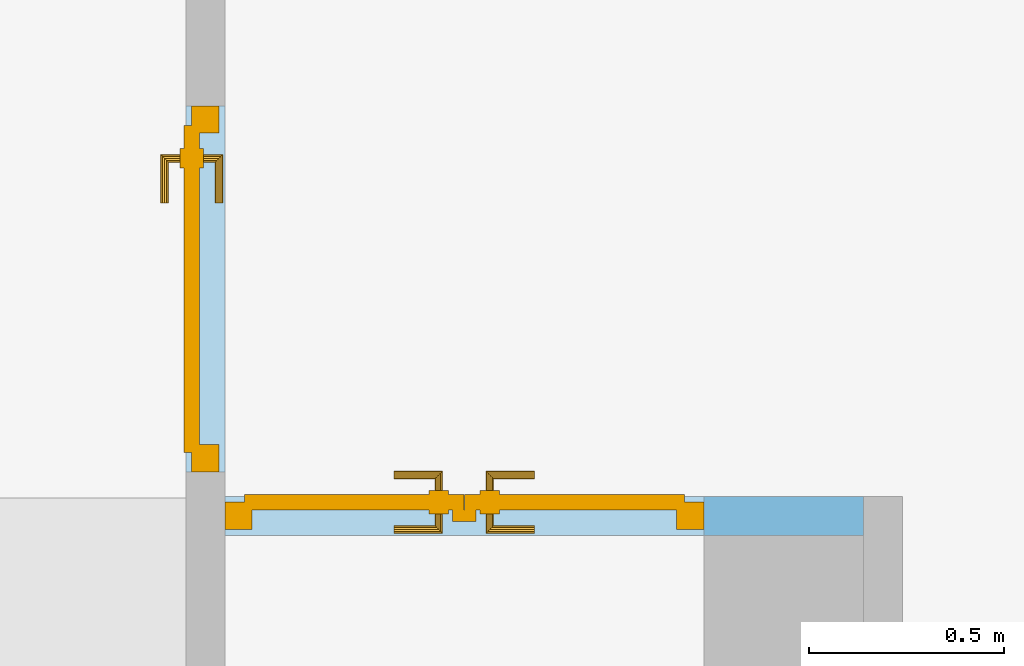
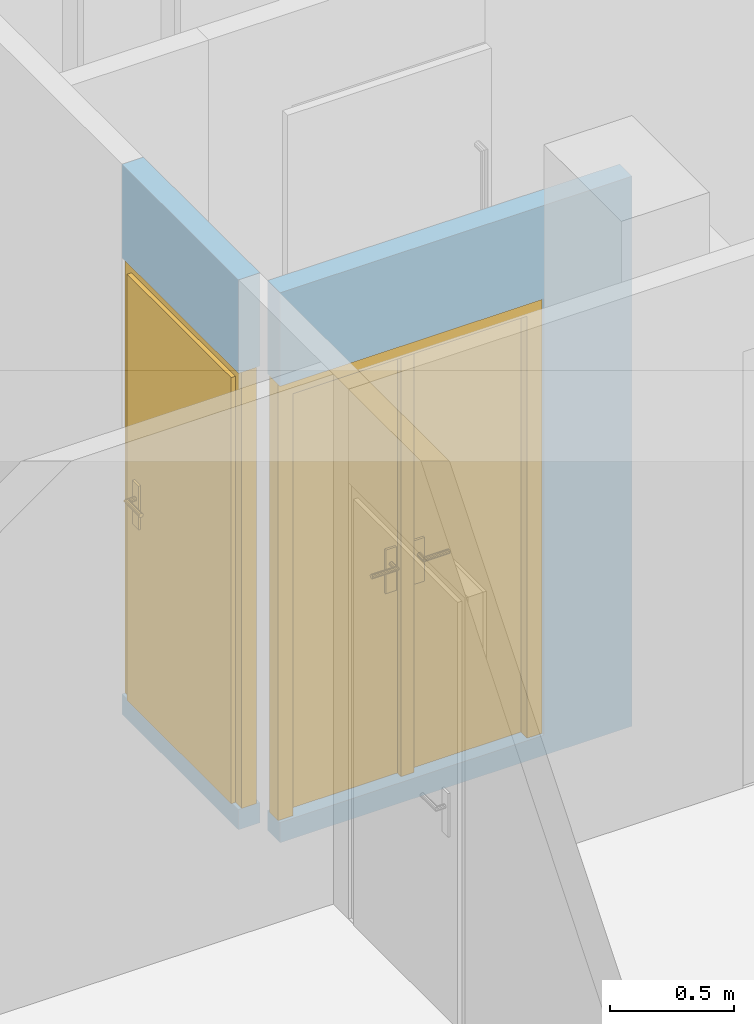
"""IFC4 building model written with IfcOpenShell, lengths in metres."""

from ifc_helpers import new_model, entity, si_unit, converted_unit, derived_unit, frame, frame_2d, origin, origin_with_axes, place, context, subcontext, project, spatial, polyline, rectangle, outline, extrude, faceted_brep, source, transform, mapped, material, layer, layer_set, layer_usage, element, fill, save


model = new_model("IFC4")

# Units and contexts
model_context = context("Model", 3, precision=1e-05, world=origin())
body_context = subcontext(model_context, "Body", "Model", "MODEL_VIEW")
ifc_project = project(units=[si_unit("LENGTHUNIT", "METRE"), si_unit("AREAUNIT", "SQUARE_METRE"), si_unit("VOLUMEUNIT", "CUBIC_METRE"), si_unit("MASSUNIT", "GRAM", prefix="KILO"), converted_unit("PLANEANGLEUNIT", "DEGREE", entity("IfcPlaneAngleMeasure", 0.0174532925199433), si_unit("PLANEANGLEUNIT", "RADIAN"), dimensions=[0, 0, 0, 0, 0, 0, 0]), derived_unit("THERMALTRANSMITTANCEUNIT", [(si_unit("POWERUNIT", "WATT"), 1), (si_unit("THERMODYNAMICTEMPERATUREUNIT", "KELVIN"), -1), (si_unit("LENGTHUNIT", "METRE"), -2)]), derived_unit("VOLUMETRICFLOWRATEUNIT", [(si_unit("LENGTHUNIT", "METRE"), 3), (converted_unit("TIMEUNIT", "hour", entity("IfcTimeMeasure", 3600.0), si_unit("TIMEUNIT", "SECOND"), dimensions=[0, 0, 1, 0, 0, 0, 0]), -1), (si_unit("LENGTHUNIT", "METRE"), -1)])], contexts=[model_context])

# Building, storeys
building_placement = place(None, origin())
building = spatial("IfcBuilding", under=ifc_project, at=building_placement, Name="HABITATGE PLURIFAMILIAR", CompositionType="ELEMENT")
storey_1_placement = place(building_placement, frame((0.0, 0.0, 18.29)))
storey_1 = spatial("IfcBuildingStorey", under=building, at=storey_1_placement, Name="PLANTA CINQUENA", CompositionType="ELEMENT", Elevation=18.29)
storey_2_placement = place(storey_1_placement, frame((0.0, 0.0, 15.28)))
storey_2 = spatial("IfcBuildingStorey", under=storey_1, at=storey_2_placement, Name="NOU", CompositionType="PARTIAL")

# Wall, opening, door
ifc_material_1 = material()
ifc_layer_1 = layer(ifc_material_1, 0.1)
ifc_layer_set_1 = layer_set([ifc_layer_1])
ifc_layer_usage_1 = layer_usage(ifc_layer_set_1, "AXIS2", "POSITIVE", 0.0)
wall_1_placement = place(storey_2_placement, frame((406.076984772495, 24.2444598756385, -15.38), z_axis=(0.0, 0.0, 1.0), x_axis=(-1.0, 0.0, 0.0)))
wall_1 = element("IfcWall", 1, at=wall_1_placement, inside=storey_2, material=ifc_layer_usage_1, Name="Evans P5", context=body_context, shape_type="SweptSolid", body=[
    extrude(rectangle(XDim=1.63999999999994, YDim=0.1, at=frame_2d((0.819999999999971, 0.05), x_axis=(1.0, 0.0))), origin_with_axes(), (0.0, 0.0, 1.0), 2.71),
])
opening_1_placement = place(wall_1_placement, frame((1.63999999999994, 0.1, 0.1), z_axis=(0.0, -1.0, 0.0), x_axis=(0.0, 0.0, 1.0)))
opening_1 = element("IfcOpeningElement", 2, at=opening_1_placement, cuts=wall_1, Name="Vano porta P5", ObjectType="Opening", context=body_context, shape_type="SweptSolid", body=[
    extrude(outline(polyline([(2.15, 1.23), (2.15, 0.0), (0.0, 0.0), (0.0, 1.23), (2.15, 1.23)])), origin_with_axes(), (0.0, 0.0, 1.0), 0.1),
])
shared_shape_1 = source(origin_with_axes(), body_context, "Body", "Brep", [
    faceted_brep([(0.0, 0.07, 2.15), (0.0, 0.07, 0.0), (0.07, 0.07, 0.0), (0.07, 0.07, 2.15), (0.0, 0.0, 0.0), (0.0, 0.0, 2.15), (0.07, 0.0, 2.15), (0.07, 0.0, 0.0)], [[[0, 1, 2, 3]], [[4, 5, 6, 7]], [[1, 0, 5, 4]], [[2, 1, 4, 7]], [[3, 2, 7, 6]], [[0, 3, 6, 5]]], orient=[[False], [False], [False], [False], [False], [False]]),
    faceted_brep([(1.16, 0.07, 2.15), (1.16, 0.07, 0.0), (1.23, 0.07, 0.0), (1.23, 0.07, 2.15), (1.16, 0.0, 0.0), (1.16, 0.0, 2.15), (1.23, 0.0, 2.15), (1.23, 0.0, 0.0)], [[[0, 1, 2, 3]], [[4, 5, 6, 7]], [[1, 0, 5, 4]], [[2, 1, 4, 7]], [[3, 2, 7, 6]], [[0, 3, 6, 5]]], orient=[[False], [False], [False], [False], [False], [False]]),
    faceted_brep([(0.07, 0.07, 2.15), (0.07, 0.07, 2.08), (1.16, 0.07, 2.08), (1.16, 0.07, 2.15), (0.07, 0.0, 2.08), (0.07, 0.0, 2.15), (1.16, 0.0, 2.15), (1.16, 0.0, 2.08)], [[[0, 1, 2, 3]], [[4, 5, 6, 7]], [[1, 0, 5, 4]], [[2, 1, 4, 7]], [[3, 2, 7, 6]], [[0, 3, 6, 5]]], orient=[[False], [False], [False], [False], [False], [False]]),
    faceted_brep([(0.05, 0.09, 2.1), (0.05, 0.09, 0.0), (0.6145, 0.09, 0.0), (0.6145, 0.09, 2.1), (0.05, 0.05, 0.0), (0.05, 0.05, 2.1), (0.6145, 0.05, 2.1), (0.6145, 0.05, 0.0)], [[[0, 1, 2, 3]], [[4, 5, 6, 7]], [[1, 0, 5, 4]], [[2, 1, 4, 7]], [[3, 2, 7, 6]], [[0, 3, 6, 5]]], orient=[[False], [False], [False], [False], [False], [False]]),
    faceted_brep([(0.5845, 0.05, 2.08), (0.5845, 0.05, 0.0), (0.6445, 0.05, 0.0), (0.6445, 0.05, 2.08), (0.5845, 0.02, 0.0), (0.5845, 0.02, 2.08), (0.6445, 0.02, 2.08), (0.6445, 0.02, 0.0)], [[[0, 1, 2, 3]], [[4, 5, 6, 7]], [[1, 0, 5, 4]], [[2, 1, 4, 7]], [[3, 2, 7, 6]], [[0, 3, 6, 5]]], orient=[[False], [False], [False], [False], [False], [False]]),
    faceted_brep([(0.5245, 0.05, 1.125), (0.5245, 0.05, 0.91), (0.5745, 0.05, 0.91), (0.5745, 0.05, 1.125), (0.5245, 0.04, 0.91), (0.5245, 0.04, 1.125), (0.5745, 0.04, 1.125), (0.5745, 0.04, 0.91)], [[[0, 1, 2, 3]], [[4, 5, 6, 7]], [[1, 0, 5, 4]], [[2, 1, 4, 7]], [[3, 2, 7, 6]], [[0, 3, 6, 5]]], orient=[[False], [False], [False], [False], [False], [False]]),
    faceted_brep([(0.5495, 0.04, 1.06), (0.5445, 0.04, 1.05866025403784), (0.540839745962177, 0.04, 1.055), (0.5395, 0.04, 1.05), (0.540839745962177, 0.04, 1.045), (0.5445, 0.04, 1.04133974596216), (0.5495, 0.04, 1.04), (0.5545, 0.04, 1.04133974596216), (0.558160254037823, 0.04, 1.045), (0.5595, 0.04, 1.05), (0.558160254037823, 0.04, 1.055), (0.5545, 0.04, 1.05866025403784), (0.5545, -0.005, 1.05866025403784), (0.5495, 0.0, 1.06), (0.558160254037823, -0.00866025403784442, 1.055), (0.5595, -0.01, 1.05), (0.558160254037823, -0.00866025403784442, 1.045), (0.5545, -0.005, 1.04133974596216), (0.5495, 0.0, 1.04), (0.5445, 0.005, 1.04133974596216), (0.540839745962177, 0.00866025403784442, 1.045), (0.5395, 0.01, 1.05), (0.540839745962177, 0.00866025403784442, 1.055), (0.5445, 0.005, 1.05866025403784), (0.4345, 0.0, 1.06), (0.4345, -0.005, 1.05866025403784), (0.4345, -0.00866025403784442, 1.055), (0.4345, -0.01, 1.05), (0.4345, -0.00866025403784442, 1.045), (0.4345, -0.005, 1.04133974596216), (0.4345, 0.0, 1.04), (0.4345, 0.005, 1.04133974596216), (0.4345, 0.00866025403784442, 1.045), (0.4345, 0.01, 1.05), (0.4345, 0.00866025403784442, 1.055), (0.4345, 0.005, 1.05866025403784)], [[[0, 1, 2, 3, 4, 5, 6, 7, 8, 9, 10, 11]], [[0, 11, 12, 13]], [[11, 10, 14, 12]], [[10, 9, 15, 14]], [[9, 8, 16, 15]], [[8, 7, 17, 16]], [[7, 6, 18, 17]], [[6, 5, 19, 18]], [[5, 4, 20, 19]], [[4, 3, 21, 20]], [[3, 2, 22, 21]], [[2, 1, 23, 22]], [[1, 0, 13, 23]], [[24, 25, 26, 27, 28, 29, 30, 31, 32, 33, 34, 35]], [[13, 12, 25, 24]], [[12, 14, 26, 25]], [[14, 15, 27, 26]], [[15, 16, 28, 27]], [[16, 17, 29, 28]], [[17, 18, 30, 29]], [[18, 19, 31, 30]], [[19, 20, 32, 31]], [[20, 21, 33, 32]], [[21, 22, 34, 33]], [[22, 23, 35, 34]], [[23, 13, 24, 35]]], orient=[[False], [False], [False], [False], [False], [False], [False], [False], [False], [False], [False], [False], [False], [False], [False], [False], [False], [False], [False], [False], [False], [False], [False], [False], [False], [False]]),
    faceted_brep([(0.5245, 0.09, 1.125), (0.5745, 0.09, 1.125), (0.5745, 0.09, 0.91), (0.5245, 0.09, 0.91), (0.5245, 0.1, 0.91), (0.5745, 0.1, 0.91), (0.5745, 0.1, 1.125), (0.5245, 0.1, 1.125)], [[[0, 1, 2, 3]], [[4, 5, 6, 7]], [[3, 4, 7, 0]], [[2, 5, 4, 3]], [[1, 6, 5, 2]], [[0, 7, 6, 1]]], orient=[[False], [False], [False], [False], [False], [False]]),
    faceted_brep([(0.5495, 0.1, 1.06), (0.5545, 0.1, 1.05866025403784), (0.558160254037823, 0.1, 1.055), (0.5595, 0.1, 1.05), (0.558160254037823, 0.1, 1.045), (0.5545, 0.1, 1.04133974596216), (0.5495, 0.1, 1.04), (0.5445, 0.1, 1.04133974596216), (0.540839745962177, 0.1, 1.045), (0.5395, 0.1, 1.05), (0.540839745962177, 0.1, 1.055), (0.5445, 0.1, 1.05866025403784), (0.5495, 0.14, 1.06), (0.5545, 0.145, 1.05866025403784), (0.558160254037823, 0.148660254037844, 1.055), (0.5595, 0.15, 1.05), (0.558160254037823, 0.148660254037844, 1.045), (0.5545, 0.145, 1.04133974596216), (0.5495, 0.14, 1.04), (0.5445, 0.135, 1.04133974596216), (0.540839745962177, 0.131339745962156, 1.045), (0.5395, 0.13, 1.05), (0.540839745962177, 0.131339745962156, 1.055), (0.5445, 0.135, 1.05866025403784), (0.4345, 0.14, 1.06), (0.4345, 0.135, 1.05866025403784), (0.4345, 0.131339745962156, 1.055), (0.4345, 0.13, 1.05), (0.4345, 0.131339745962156, 1.045), (0.4345, 0.135, 1.04133974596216), (0.4345, 0.14, 1.04), (0.4345, 0.145, 1.04133974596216), (0.4345, 0.148660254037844, 1.045), (0.4345, 0.15, 1.05), (0.4345, 0.148660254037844, 1.055), (0.4345, 0.145, 1.05866025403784)], [[[0, 1, 2, 3, 4, 5, 6, 7, 8, 9, 10, 11]], [[0, 12, 13, 1]], [[1, 13, 14, 2]], [[2, 14, 15, 3]], [[3, 15, 16, 4]], [[4, 16, 17, 5]], [[5, 17, 18, 6]], [[6, 18, 19, 7]], [[7, 19, 20, 8]], [[8, 20, 21, 9]], [[9, 21, 22, 10]], [[10, 22, 23, 11]], [[11, 23, 12, 0]], [[24, 25, 26, 27, 28, 29, 30, 31, 32, 33, 34, 35]], [[12, 24, 35, 13]], [[13, 35, 34, 14]], [[14, 34, 33, 15]], [[15, 33, 32, 16]], [[16, 32, 31, 17]], [[17, 31, 30, 18]], [[18, 30, 29, 19]], [[19, 29, 28, 20]], [[20, 28, 27, 21]], [[21, 27, 26, 22]], [[22, 26, 25, 23]], [[23, 25, 24, 12]]], orient=[[False], [False], [False], [False], [False], [False], [False], [False], [False], [False], [False], [False], [False], [False], [False], [False], [False], [False], [False], [False], [False], [False], [False], [False], [False], [False]]),
    faceted_brep([(0.6155, 0.09, 2.1), (0.6155, 0.09, 0.0), (1.18, 0.09, 0.0), (1.18, 0.09, 2.1), (0.6155, 0.05, 0.0), (0.6155, 0.05, 2.1), (1.18, 0.05, 2.1), (1.18, 0.05, 0.0)], [[[0, 1, 2, 3]], [[4, 5, 6, 7]], [[1, 0, 5, 4]], [[2, 1, 4, 7]], [[3, 2, 7, 6]], [[0, 3, 6, 5]]], orient=[[False], [False], [False], [False], [False], [False]]),
    faceted_brep([(0.6555, 0.05, 1.125), (0.6555, 0.05, 0.91), (0.7055, 0.05, 0.91), (0.7055, 0.05, 1.125), (0.6555, 0.04, 0.91), (0.6555, 0.04, 1.125), (0.7055, 0.04, 1.125), (0.7055, 0.04, 0.91)], [[[0, 1, 2, 3]], [[4, 5, 6, 7]], [[1, 0, 5, 4]], [[2, 1, 4, 7]], [[3, 2, 7, 6]], [[0, 3, 6, 5]]], orient=[[False], [False], [False], [False], [False], [False]]),
    faceted_brep([(0.6805, 0.04, 1.06), (0.6755, 0.04, 1.05866025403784), (0.671839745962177, 0.04, 1.055), (0.6705, 0.04, 1.05), (0.671839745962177, 0.04, 1.045), (0.6755, 0.04, 1.04133974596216), (0.6805, 0.04, 1.04), (0.6855, 0.04, 1.04133974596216), (0.689160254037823, 0.04, 1.045), (0.6905, 0.04, 1.05), (0.689160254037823, 0.04, 1.055), (0.6855, 0.04, 1.05866025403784), (0.6805, 0.0, 1.06), (0.6755, -0.005, 1.05866025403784), (0.671839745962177, -0.00866025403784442, 1.055), (0.6705, -0.01, 1.05), (0.671839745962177, -0.00866025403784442, 1.045), (0.6755, -0.005, 1.04133974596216), (0.6805, 0.0, 1.04), (0.6855, 0.005, 1.04133974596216), (0.689160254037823, 0.00866025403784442, 1.045), (0.6905, 0.01, 1.05), (0.689160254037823, 0.00866025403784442, 1.055), (0.6855, 0.005, 1.05866025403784), (0.7955, 0.0, 1.06), (0.7955, 0.005, 1.05866025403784), (0.7955, 0.00866025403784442, 1.055), (0.7955, 0.01, 1.05), (0.7955, 0.00866025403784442, 1.045), (0.7955, 0.005, 1.04133974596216), (0.7955, 0.0, 1.04), (0.7955, -0.005, 1.04133974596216), (0.7955, -0.00866025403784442, 1.045), (0.7955, -0.01, 1.05), (0.7955, -0.00866025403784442, 1.055), (0.7955, -0.005, 1.05866025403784)], [[[0, 1, 2, 3, 4, 5, 6, 7, 8, 9, 10, 11]], [[0, 12, 13, 1]], [[1, 13, 14, 2]], [[2, 14, 15, 3]], [[3, 15, 16, 4]], [[4, 16, 17, 5]], [[5, 17, 18, 6]], [[6, 18, 19, 7]], [[7, 19, 20, 8]], [[8, 20, 21, 9]], [[9, 21, 22, 10]], [[10, 22, 23, 11]], [[11, 23, 12, 0]], [[24, 25, 26, 27, 28, 29, 30, 31, 32, 33, 34, 35]], [[12, 24, 35, 13]], [[13, 35, 34, 14]], [[14, 34, 33, 15]], [[15, 33, 32, 16]], [[16, 32, 31, 17]], [[17, 31, 30, 18]], [[18, 30, 29, 19]], [[19, 29, 28, 20]], [[20, 28, 27, 21]], [[21, 27, 26, 22]], [[22, 26, 25, 23]], [[23, 25, 24, 12]]], orient=[[False], [False], [False], [False], [False], [False], [False], [False], [False], [False], [False], [False], [False], [False], [False], [False], [False], [False], [False], [False], [False], [False], [False], [False], [False], [False]]),
    faceted_brep([(0.6555, 0.09, 1.125), (0.7055, 0.09, 1.125), (0.7055, 0.09, 0.91), (0.6555, 0.09, 0.91), (0.6555, 0.1, 0.91), (0.7055, 0.1, 0.91), (0.7055, 0.1, 1.125), (0.6555, 0.1, 1.125)], [[[0, 1, 2, 3]], [[4, 5, 6, 7]], [[3, 4, 7, 0]], [[2, 5, 4, 3]], [[1, 6, 5, 2]], [[0, 7, 6, 1]]], orient=[[False], [False], [False], [False], [False], [False]]),
    faceted_brep([(0.6805, 0.1, 1.06), (0.6855, 0.1, 1.05866025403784), (0.689160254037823, 0.1, 1.055), (0.6905, 0.1, 1.05), (0.689160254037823, 0.1, 1.045), (0.6855, 0.1, 1.04133974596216), (0.6805, 0.1, 1.04), (0.6755, 0.1, 1.04133974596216), (0.671839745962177, 0.1, 1.045), (0.6705, 0.1, 1.05), (0.671839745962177, 0.1, 1.055), (0.6755, 0.1, 1.05866025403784), (0.6755, 0.145, 1.05866025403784), (0.6805, 0.14, 1.06), (0.671839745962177, 0.148660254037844, 1.055), (0.6705, 0.15, 1.05), (0.671839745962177, 0.148660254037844, 1.045), (0.6755, 0.145, 1.04133974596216), (0.6805, 0.14, 1.04), (0.6855, 0.135, 1.04133974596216), (0.689160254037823, 0.131339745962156, 1.045), (0.6905, 0.13, 1.05), (0.689160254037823, 0.131339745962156, 1.055), (0.6855, 0.135, 1.05866025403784), (0.7955, 0.14, 1.06), (0.7955, 0.145, 1.05866025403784), (0.7955, 0.148660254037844, 1.055), (0.7955, 0.15, 1.05), (0.7955, 0.148660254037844, 1.045), (0.7955, 0.145, 1.04133974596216), (0.7955, 0.14, 1.04), (0.7955, 0.135, 1.04133974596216), (0.7955, 0.131339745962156, 1.045), (0.7955, 0.13, 1.05), (0.7955, 0.131339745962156, 1.055), (0.7955, 0.135, 1.05866025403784)], [[[0, 1, 2, 3, 4, 5, 6, 7, 8, 9, 10, 11]], [[0, 11, 12, 13]], [[11, 10, 14, 12]], [[10, 9, 15, 14]], [[9, 8, 16, 15]], [[8, 7, 17, 16]], [[7, 6, 18, 17]], [[6, 5, 19, 18]], [[5, 4, 20, 19]], [[4, 3, 21, 20]], [[3, 2, 22, 21]], [[2, 1, 23, 22]], [[1, 0, 13, 23]], [[24, 25, 26, 27, 28, 29, 30, 31, 32, 33, 34, 35]], [[13, 12, 25, 24]], [[12, 14, 26, 25]], [[14, 15, 27, 26]], [[15, 16, 28, 27]], [[16, 17, 29, 28]], [[17, 18, 30, 29]], [[18, 19, 31, 30]], [[19, 20, 32, 31]], [[20, 21, 33, 32]], [[21, 22, 34, 33]], [[22, 23, 35, 34]], [[23, 13, 24, 35]]], orient=[[False], [False], [False], [False], [False], [False], [False], [False], [False], [False], [False], [False], [False], [False], [False], [False], [False], [False], [False], [False], [False], [False], [False], [False], [False], [False]]),
])
door_1_placement = place(opening_1_placement, frame((0.0, 0.0, 0.015), z_axis=(1.0, 0.0, 0.0), x_axis=(0.0, 1.0, 0.0)))
door_1 = element("IfcDoor", 3, at=door_1_placement, inside=storey_2, Name="Porta P5", OperationType="USERDEFINED", OverallHeight=2.15, OverallWidth=1.23, PredefinedType="DOOR", context=body_context, shape_type="MappedRepresentation", body=[
    mapped(shared_shape_1, transform((0.0, 0.0, 0.0), x_axis=(1.0, 0.0, 0.0), y_axis=(0.0, 1.0, 0.0), z_axis=(0.0, 0.0, 1.0), scale=1.0)),
])
fill(opening_1, door_1)

ifc_material_2 = material()
ifc_layer_2 = layer(ifc_material_2, 0.1)
ifc_layer_set_2 = layer_set([ifc_layer_2])
ifc_layer_usage_2 = layer_usage(ifc_layer_set_2, "AXIS2", "POSITIVE", 0.0)
wall_2_placement = place(storey_2_placement, frame((404.436984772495, 24.3072207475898, -15.38), z_axis=(0.0, 0.0, 1.0), x_axis=(0.0, 1.0, 0.0)))
wall_2 = element("IfcWall", 4, at=wall_2_placement, inside=storey_2, material=ifc_layer_usage_2, Name="Evans P5", context=body_context, shape_type="SweptSolid", body=[
    extrude(rectangle(XDim=0.94, YDim=0.1, at=frame_2d((0.47, 0.05), x_axis=(1.0, 0.0))), origin_with_axes(), (0.0, 0.0, 1.0), 2.71),
])
opening_2_placement = place(wall_2_placement, frame((0.0, 0.0, 0.1), z_axis=(0.0, 1.0, 0.0), x_axis=(0.0, 0.0, 1.0)))
opening_2 = element("IfcOpeningElement", 5, at=opening_2_placement, cuts=wall_2, Name="Vano puerta", ObjectType="Opening", context=body_context, shape_type="SweptSolid", body=[
    extrude(outline(polyline([(2.15, 0.94), (2.15, 0.0), (0.0, 0.0), (0.0, 0.94), (2.15, 0.94)])), origin_with_axes(), (0.0, 0.0, 1.0), 0.1),
])
shared_shape_2 = source(origin_with_axes(), body_context, "Body", "Brep", [
    faceted_brep([(0.939999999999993, 0.0700000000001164, 2.15), (0.869999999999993, 0.0700000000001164, 2.15), (0.869999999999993, 0.0700000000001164, 0.0), (0.939999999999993, 0.0700000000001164, 0.0), (0.939999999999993, 0.0, 0.0), (0.869999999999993, 0.0, 0.0), (0.869999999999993, 0.0, 2.15), (0.939999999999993, 0.0, 2.15)], [[[0, 1, 2, 3]], [[4, 5, 6, 7]], [[3, 4, 7, 0]], [[2, 5, 4, 3]], [[1, 6, 5, 2]], [[0, 7, 6, 1]]], orient=[[False], [False], [False], [False], [False], [False]]),
    faceted_brep([(0.0699999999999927, 0.0700000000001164, 2.15), (0.0, 0.0700000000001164, 2.15), (0.0, 0.0700000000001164, 0.0), (0.0699999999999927, 0.0700000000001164, 0.0), (0.0699999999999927, 0.0, 0.0), (0.0, 0.0, 0.0), (0.0, 0.0, 2.15), (0.0699999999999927, 0.0, 2.15)], [[[0, 1, 2, 3]], [[4, 5, 6, 7]], [[3, 4, 7, 0]], [[2, 5, 4, 3]], [[1, 6, 5, 2]], [[0, 7, 6, 1]]], orient=[[False], [False], [False], [False], [False], [False]]),
    faceted_brep([(0.869999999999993, 0.0700000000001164, 2.15), (0.0699999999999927, 0.0700000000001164, 2.15), (0.0699999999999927, 0.0700000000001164, 2.08), (0.869999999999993, 0.0700000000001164, 2.08), (0.869999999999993, 0.0, 2.08), (0.0699999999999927, 0.0, 2.08), (0.0699999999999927, 0.0, 2.15), (0.869999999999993, 0.0, 2.15)], [[[0, 1, 2, 3]], [[4, 5, 6, 7]], [[3, 4, 7, 0]], [[2, 5, 4, 3]], [[1, 6, 5, 2]], [[0, 7, 6, 1]]], orient=[[False], [False], [False], [False], [False], [False]]),
    faceted_brep([(0.889999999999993, 0.0900000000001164, 2.1), (0.0499999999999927, 0.0900000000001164, 2.1), (0.0499999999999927, 0.0900000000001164, 0.0), (0.889999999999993, 0.0900000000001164, 0.0), (0.889999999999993, 0.0500000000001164, 0.0), (0.0499999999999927, 0.0500000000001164, 0.0), (0.0499999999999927, 0.0500000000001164, 2.1), (0.889999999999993, 0.0500000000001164, 2.1)], [[[0, 1, 2, 3]], [[4, 5, 6, 7]], [[3, 4, 7, 0]], [[2, 5, 4, 3]], [[1, 6, 5, 2]], [[0, 7, 6, 1]]], orient=[[False], [False], [False], [False], [False], [False]]),
    faceted_brep([(0.829999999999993, 0.0500000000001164, 1.125), (0.779999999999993, 0.0500000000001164, 1.125), (0.779999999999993, 0.0500000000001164, 0.91), (0.829999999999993, 0.0500000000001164, 0.91), (0.829999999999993, 0.0400000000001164, 0.91), (0.779999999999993, 0.0400000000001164, 0.91), (0.779999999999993, 0.0400000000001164, 1.125), (0.829999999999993, 0.0400000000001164, 1.125)], [[[0, 1, 2, 3]], [[4, 5, 6, 7]], [[3, 4, 7, 0]], [[2, 5, 4, 3]], [[1, 6, 5, 2]], [[0, 7, 6, 1]]], orient=[[False], [False], [False], [False], [False], [False]]),
    faceted_brep([(0.804999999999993, 0.0400000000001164, 1.06), (0.799999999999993, 0.0400000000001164, 1.05866025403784), (0.796339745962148, 0.0400000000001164, 1.055), (0.794999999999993, 0.0400000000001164, 1.05), (0.796339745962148, 0.0400000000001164, 1.045), (0.799999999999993, 0.0400000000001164, 1.04133974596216), (0.804999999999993, 0.0400000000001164, 1.04), (0.809999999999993, 0.0400000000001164, 1.04133974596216), (0.813660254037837, 0.0400000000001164, 1.045), (0.814999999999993, 0.0400000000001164, 1.05), (0.813660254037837, 0.0400000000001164, 1.055), (0.809999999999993, 0.0400000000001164, 1.05866025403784), (0.809999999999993, -0.00499999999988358, 1.05866025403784), (0.804999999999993, 0.0, 1.06), (0.813660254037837, -0.00866025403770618, 1.055), (0.814999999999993, -0.00999999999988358, 1.05), (0.813660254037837, -0.00866025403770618, 1.045), (0.809999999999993, -0.00499999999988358, 1.04133974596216), (0.804999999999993, 0.0, 1.04), (0.799999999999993, 0.00500000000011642, 1.04133974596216), (0.796339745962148, 0.00866025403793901, 1.045), (0.794999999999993, 0.0100000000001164, 1.05), (0.796339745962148, 0.00866025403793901, 1.055), (0.799999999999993, 0.00500000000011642, 1.05866025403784), (0.689999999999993, 0.0, 1.06), (0.689999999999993, -0.00499999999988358, 1.05866025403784), (0.689999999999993, -0.00866025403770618, 1.055), (0.689999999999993, -0.00999999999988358, 1.05), (0.689999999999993, -0.00866025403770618, 1.045), (0.689999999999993, -0.00499999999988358, 1.04133974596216), (0.689999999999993, 0.0, 1.04), (0.689999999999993, 0.00500000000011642, 1.04133974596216), (0.689999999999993, 0.00866025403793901, 1.045), (0.689999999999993, 0.0100000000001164, 1.05), (0.689999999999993, 0.00866025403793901, 1.055), (0.689999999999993, 0.00500000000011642, 1.05866025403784)], [[[0, 1, 2, 3, 4, 5, 6, 7, 8, 9, 10, 11]], [[0, 11, 12, 13]], [[11, 10, 14, 12]], [[10, 9, 15, 14]], [[9, 8, 16, 15]], [[8, 7, 17, 16]], [[7, 6, 18, 17]], [[6, 5, 19, 18]], [[5, 4, 20, 19]], [[4, 3, 21, 20]], [[3, 2, 22, 21]], [[2, 1, 23, 22]], [[1, 0, 13, 23]], [[24, 25, 26, 27, 28, 29, 30, 31, 32, 33, 34, 35]], [[13, 12, 25, 24]], [[12, 14, 26, 25]], [[14, 15, 27, 26]], [[15, 16, 28, 27]], [[16, 17, 29, 28]], [[17, 18, 30, 29]], [[18, 19, 31, 30]], [[19, 20, 32, 31]], [[20, 21, 33, 32]], [[21, 22, 34, 33]], [[22, 23, 35, 34]], [[23, 13, 24, 35]]], orient=[[False], [False], [False], [False], [False], [False], [False], [False], [False], [False], [False], [False], [False], [False], [False], [False], [False], [False], [False], [False], [False], [False], [False], [False], [False], [False]]),
    faceted_brep([(0.829999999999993, 0.0900000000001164, 1.125), (0.829999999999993, 0.0900000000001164, 0.91), (0.779999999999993, 0.0900000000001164, 0.91), (0.779999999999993, 0.0900000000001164, 1.125), (0.829999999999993, 0.100000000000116, 0.91), (0.829999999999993, 0.100000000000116, 1.125), (0.779999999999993, 0.100000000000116, 1.125), (0.779999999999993, 0.100000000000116, 0.91)], [[[0, 1, 2, 3]], [[4, 5, 6, 7]], [[1, 0, 5, 4]], [[2, 1, 4, 7]], [[3, 2, 7, 6]], [[0, 3, 6, 5]]], orient=[[False], [False], [False], [False], [False], [False]]),
    faceted_brep([(0.804999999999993, 0.100000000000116, 1.06), (0.809999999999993, 0.100000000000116, 1.05866025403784), (0.813660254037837, 0.100000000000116, 1.055), (0.814999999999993, 0.100000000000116, 1.05), (0.813660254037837, 0.100000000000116, 1.045), (0.809999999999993, 0.100000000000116, 1.04133974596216), (0.804999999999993, 0.100000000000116, 1.04), (0.799999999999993, 0.100000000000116, 1.04133974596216), (0.796339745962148, 0.100000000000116, 1.045), (0.794999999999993, 0.100000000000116, 1.05), (0.796339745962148, 0.100000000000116, 1.055), (0.799999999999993, 0.100000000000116, 1.05866025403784), (0.804999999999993, 0.140000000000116, 1.06), (0.809999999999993, 0.145000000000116, 1.05866025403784), (0.813660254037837, 0.148660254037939, 1.055), (0.814999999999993, 0.150000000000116, 1.05), (0.813660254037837, 0.148660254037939, 1.045), (0.809999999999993, 0.145000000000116, 1.04133974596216), (0.804999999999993, 0.140000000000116, 1.04), (0.799999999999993, 0.135000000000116, 1.04133974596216), (0.796339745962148, 0.131339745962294, 1.045), (0.794999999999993, 0.130000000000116, 1.05), (0.796339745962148, 0.131339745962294, 1.055), (0.799999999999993, 0.135000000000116, 1.05866025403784), (0.689999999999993, 0.140000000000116, 1.06), (0.689999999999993, 0.135000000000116, 1.05866025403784), (0.689999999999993, 0.131339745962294, 1.055), (0.689999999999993, 0.130000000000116, 1.05), (0.689999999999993, 0.131339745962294, 1.045), (0.689999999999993, 0.135000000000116, 1.04133974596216), (0.689999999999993, 0.140000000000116, 1.04), (0.689999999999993, 0.145000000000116, 1.04133974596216), (0.689999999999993, 0.148660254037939, 1.045), (0.689999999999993, 0.150000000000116, 1.05), (0.689999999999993, 0.148660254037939, 1.055), (0.689999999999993, 0.145000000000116, 1.05866025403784)], [[[0, 1, 2, 3, 4, 5, 6, 7, 8, 9, 10, 11]], [[0, 12, 13, 1]], [[1, 13, 14, 2]], [[2, 14, 15, 3]], [[3, 15, 16, 4]], [[4, 16, 17, 5]], [[5, 17, 18, 6]], [[6, 18, 19, 7]], [[7, 19, 20, 8]], [[8, 20, 21, 9]], [[9, 21, 22, 10]], [[10, 22, 23, 11]], [[11, 23, 12, 0]], [[24, 25, 26, 27, 28, 29, 30, 31, 32, 33, 34, 35]], [[12, 24, 35, 13]], [[13, 35, 34, 14]], [[14, 34, 33, 15]], [[15, 33, 32, 16]], [[16, 32, 31, 17]], [[17, 31, 30, 18]], [[18, 30, 29, 19]], [[19, 29, 28, 20]], [[20, 28, 27, 21]], [[21, 27, 26, 22]], [[22, 26, 25, 23]], [[23, 25, 24, 12]]], orient=[[False], [False], [False], [False], [False], [False], [False], [False], [False], [False], [False], [False], [False], [False], [False], [False], [False], [False], [False], [False], [False], [False], [False], [False], [False], [False]]),
])
door_2_placement = place(opening_2_placement, frame((0.0, 0.0, 0.015), z_axis=(1.0, 0.0, 0.0), x_axis=(0.0, 1.0, 0.0)))
door_2 = element("IfcDoor", 6, at=door_2_placement, inside=storey_2, Name="Porta P5", OperationType="USERDEFINED", OverallHeight=2.15, OverallWidth=0.94, PredefinedType="DOOR", context=body_context, shape_type="MappedRepresentation", body=[
    mapped(shared_shape_2, transform((0.0, 0.0, 0.0), x_axis=(1.0, 0.0, 0.0), y_axis=(0.0, 1.0, 0.0), z_axis=(0.0, 0.0, 1.0), scale=1.0)),
])
fill(opening_2, door_2)

save(model, "model.ifc")
